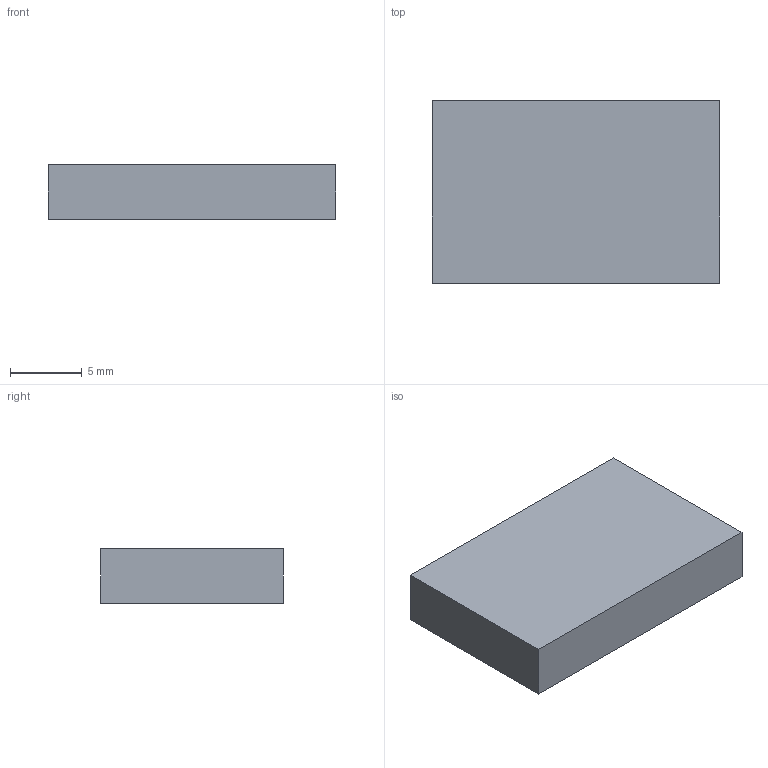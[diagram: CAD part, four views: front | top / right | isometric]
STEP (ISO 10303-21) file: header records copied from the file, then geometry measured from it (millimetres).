
FILE_DESCRIPTION(('FreeCAD Model'),'2;1');
FILE_NAME('Open CASCADE Shape Model','2026-10-31T13:49:49',('FreeCAD'),( 'FreeCAD'),'Open CASCADE STEP processor 7.8','FreeCAD','Unknown');
FILE_SCHEMA(('AUTOMOTIVE_DESIGN { 1 0 10303 214 1 1 1 1 }'));
Length unit declared in the file: millimetre
Products named in the file (1): Open CASCADE STEP translator 7.8 15
Bounding box: 20 x 12.7 x 3.8 mm (x, y, z)
Volume: 965.2 mm3; surface area: 756.5 mm2
Topology: 1 solids, 1 shells, 6 faces, 12 edges, 8 vertices
Faces by surface type: plane 6
Entity records: 166 total; most frequent: CARTESIAN_POINT 27, DIRECTION 26, ORIENTED_EDGE 24, EDGE_CURVE 12, LINE 12, VECTOR 12, VERTEX_POINT 8, AXIS2_PLACEMENT_3D 7
